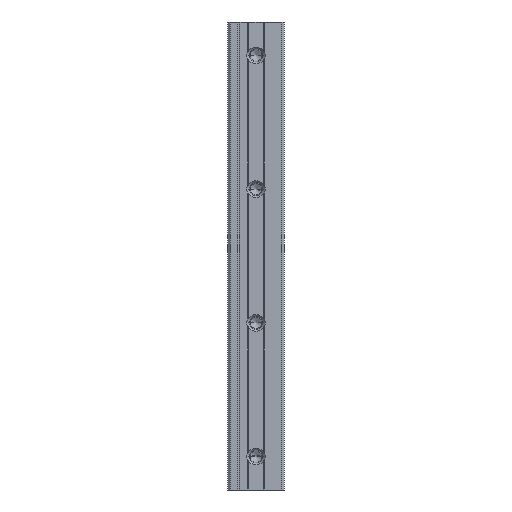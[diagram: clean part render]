
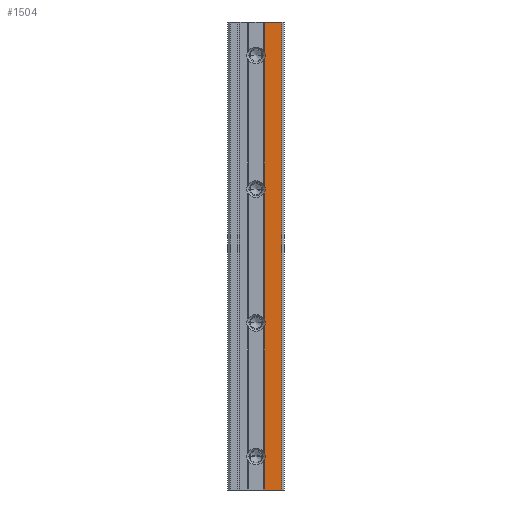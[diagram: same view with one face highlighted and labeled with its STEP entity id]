
A CAD part, front view. The second image highlights one B-rep face of the part: STEP entity #1504.
In plain terms, the highlighted planar face has unit normal (0, -1, 0).
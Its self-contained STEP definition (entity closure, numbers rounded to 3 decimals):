
#75 = VERTEX_POINT ( 'NONE', #2857 ) ;
#81 = VERTEX_POINT ( 'NONE', #2554 ) ;
#123 = AXIS2_PLACEMENT_3D ( 'NONE', #1207, #875, #551 ) ;
#133 = ORIENTED_EDGE ( 'NONE', *, *, #1852, .T. ) ;
#160 = AXIS2_PLACEMENT_3D ( 'NONE', #984, #650, #323 ) ;
#179 = CARTESIAN_POINT ( 'NONE',  ( 22., 0., -102.409 ) ) ;
#199 = VERTEX_POINT ( 'NONE', #3117 ) ;
#215 = EDGE_CURVE ( 'NONE', #477, #75, #1261, .T. ) ;
#224 = ORIENTED_EDGE ( 'NONE', *, *, #1941, .T. ) ;
#225 = AXIS2_PLACEMENT_3D ( 'NONE', #2138, #1811, #1485 ) ;
#241 = DIRECTION ( 'NONE',  ( 1., 0., 0. ) ) ;
#273 = ORIENTED_EDGE ( 'NONE', *, *, #373, .T. ) ;
#274 = ORIENTED_EDGE ( 'NONE', *, *, #2859, .F. ) ;
#285 = DIRECTION ( 'NONE',  ( 0., 0., 1. ) ) ;
#288 = CIRCLE ( 'NONE', #1098, 5.55 ) ;
#289 = DIRECTION ( 'NONE',  ( 0., 0., 1. ) ) ;
#293 = DIRECTION ( 'NONE',  ( 0., 1., 0. ) ) ;
#316 = CARTESIAN_POINT ( 'NONE',  ( 32.5, 0., -280. ) ) ;
#323 = DIRECTION ( 'NONE',  ( -1., 0., 0. ) ) ;
#331 = AXIS2_PLACEMENT_3D ( 'NONE', #2020, #1692, #1354 ) ;
#373 = EDGE_CURVE ( 'NONE', #1851, #1190, #898, .T. ) ;
#422 = CARTESIAN_POINT ( 'NONE',  ( 22.55, 0., -20. ) ) ;
#474 = EDGE_CURVE ( 'NONE', #1072, #199, #2381, .T. ) ;
#477 = VERTEX_POINT ( 'NONE', #1063 ) ;
#487 = EDGE_CURVE ( 'NONE', #2007, #1343, #2986, .T. ) ;
#535 = DIRECTION ( 'NONE',  ( 0., 0., 1. ) ) ;
#541 = CIRCLE ( 'NONE', #123, 5.55 ) ;
#551 = DIRECTION ( 'NONE',  ( -1., 0., 0. ) ) ;
#558 = CIRCLE ( 'NONE', #1833, 5.55 ) ;
#563 = VECTOR ( 'NONE', #743, 1000. ) ;
#575 = CARTESIAN_POINT ( 'NONE',  ( 32.5, 0., -280. ) ) ;
#607 = CARTESIAN_POINT ( 'NONE',  ( 22., 0., -280. ) ) ;
#612 = CARTESIAN_POINT ( 'NONE',  ( 22., 0., -280. ) ) ;
#618 = CARTESIAN_POINT ( 'NONE',  ( 17., 0., -260. ) ) ;
#645 = VECTOR ( 'NONE', #285, 1000. ) ;
#650 = DIRECTION ( 'NONE',  ( 0., 1., 0. ) ) ;
#665 = CARTESIAN_POINT ( 'NONE',  ( 22., 0., 0. ) ) ;
#717 = EDGE_CURVE ( 'NONE', #2409, #2268, #935, .T. ) ;
#735 = ORIENTED_EDGE ( 'NONE', *, *, #2476, .F. ) ;
#740 = DIRECTION ( 'NONE',  ( 0., 0., 1. ) ) ;
#743 = DIRECTION ( 'NONE',  ( 0., 0., 1. ) ) ;
#777 = ORIENTED_EDGE ( 'NONE', *, *, #717, .F. ) ;
#848 = ORIENTED_EDGE ( 'NONE', *, *, #2226, .T. ) ;
#860 = CARTESIAN_POINT ( 'NONE',  ( 32.5, 0., -280. ) ) ;
#872 = EDGE_CURVE ( 'NONE', #1190, #199, #1186, .T. ) ;
#875 = DIRECTION ( 'NONE',  ( 0., 1., 0. ) ) ;
#898 = LINE ( 'NONE', #575, #2752 ) ;
#931 = CARTESIAN_POINT ( 'NONE',  ( 32.5, 0., -280. ) ) ;
#935 = LINE ( 'NONE', #607, #645 ) ;
#941 = LINE ( 'NONE', #612, #1011 ) ;
#947 = CARTESIAN_POINT ( 'NONE',  ( 22., 0., -280. ) ) ;
#984 = CARTESIAN_POINT ( 'NONE',  ( 17., 0., -20. ) ) ;
#1002 = CARTESIAN_POINT ( 'NONE',  ( 22.55, 0., -180. ) ) ;
#1011 = VECTOR ( 'NONE', #289, 1000. ) ;
#1063 = CARTESIAN_POINT ( 'NONE',  ( 22.55, 0., -260. ) ) ;
#1066 = VERTEX_POINT ( 'NONE', #1002 ) ;
#1068 = CARTESIAN_POINT ( 'NONE',  ( 22., 0., -280. ) ) ;
#1071 = CARTESIAN_POINT ( 'NONE',  ( 22., 0., -280. ) ) ;
#1072 = VERTEX_POINT ( 'NONE', #665 ) ;
#1098 = AXIS2_PLACEMENT_3D ( 'NONE', #2661, #2342, #2012 ) ;
#1142 = VERTEX_POINT ( 'NONE', #2742 ) ;
#1160 = EDGE_CURVE ( 'NONE', #2497, #1066, #288, .T. ) ;
#1186 = LINE ( 'NONE', #860, #2879 ) ;
#1190 = VERTEX_POINT ( 'NONE', #931 ) ;
#1207 = CARTESIAN_POINT ( 'NONE',  ( 17., 0., -20. ) ) ;
#1240 = EDGE_CURVE ( 'NONE', #81, #2007, #541, .T. ) ;
#1261 = CIRCLE ( 'NONE', #2197, 5.55 ) ;
#1278 = ORIENTED_EDGE ( 'NONE', *, *, #1954, .F. ) ;
#1280 = ORIENTED_EDGE ( 'NONE', *, *, #2243, .F. ) ;
#1343 = VERTEX_POINT ( 'NONE', #2375 ) ;
#1354 = DIRECTION ( 'NONE',  ( -1., 0., 0. ) ) ;
#1396 = CARTESIAN_POINT ( 'NONE',  ( 22., 0., -97.591 ) ) ;
#1399 = LINE ( 'NONE', #1071, #563 ) ;
#1485 = DIRECTION ( 'NONE',  ( -1., 0., 0. ) ) ;
#1491 = FACE_OUTER_BOUND ( 'NONE', #1758, .T. ) ;
#1504 = ADVANCED_FACE ( 'NONE', ( #1491 ), #1640, .T. ) ;
#1519 = ORIENTED_EDGE ( 'NONE', *, *, #487, .T. ) ;
#1621 = AXIS2_PLACEMENT_3D ( 'NONE', #618, #293, #3153 ) ;
#1640 = PLANE ( 'NONE',  #2068 ) ;
#1692 = DIRECTION ( 'NONE',  ( 0., 1., 0. ) ) ;
#1729 = DIRECTION ( 'NONE',  ( 1., 0., 0. ) ) ;
#1758 = EDGE_LOOP ( 'NONE', ( #133, #2871, #1280, #273, #3151, #3080, #735, #2674, #1519, #1278, #2301, #224, #274, #2157, #848, #777 ) ) ;
#1809 = DIRECTION ( 'NONE',  ( -1., 0., 0. ) ) ;
#1811 = DIRECTION ( 'NONE',  ( 0., 1., 0. ) ) ;
#1833 = AXIS2_PLACEMENT_3D ( 'NONE', #2469, #2136, #1809 ) ;
#1851 = VERTEX_POINT ( 'NONE', #947 ) ;
#1852 = EDGE_CURVE ( 'NONE', #2409, #477, #2543, .T. ) ;
#1941 = EDGE_CURVE ( 'NONE', #1142, #2914, #3018, .T. ) ;
#1954 = EDGE_CURVE ( 'NONE', #2242, #1343, #1399, .T. ) ;
#2007 = VERTEX_POINT ( 'NONE', #422 ) ;
#2012 = DIRECTION ( 'NONE',  ( -1., 0., 0. ) ) ;
#2020 = CARTESIAN_POINT ( 'NONE',  ( 17., 0., -100. ) ) ;
#2031 = DIRECTION ( 'NONE',  ( -1., 0., 0. ) ) ;
#2055 = CARTESIAN_POINT ( 'NONE',  ( 32.5, 0., 0. ) ) ;
#2068 = AXIS2_PLACEMENT_3D ( 'NONE', #316, #3180, #2864 ) ;
#2106 = VECTOR ( 'NONE', #2504, 1000. ) ;
#2136 = DIRECTION ( 'NONE',  ( 0., 1., 0. ) ) ;
#2138 = CARTESIAN_POINT ( 'NONE',  ( 17., 0., -100. ) ) ;
#2150 = EDGE_CURVE ( 'NONE', #2242, #1142, #2295, .T. ) ;
#2157 = ORIENTED_EDGE ( 'NONE', *, *, #1160, .T. ) ;
#2197 = AXIS2_PLACEMENT_3D ( 'NONE', #2681, #2357, #2031 ) ;
#2226 = EDGE_CURVE ( 'NONE', #1066, #2268, #558, .T. ) ;
#2242 = VERTEX_POINT ( 'NONE', #1396 ) ;
#2243 = EDGE_CURVE ( 'NONE', #1851, #75, #2711, .T. ) ;
#2268 = VERTEX_POINT ( 'NONE', #2316 ) ;
#2295 = CIRCLE ( 'NONE', #331, 5.55 ) ;
#2301 = ORIENTED_EDGE ( 'NONE', *, *, #2150, .T. ) ;
#2316 = CARTESIAN_POINT ( 'NONE',  ( 22., 0., -182.409 ) ) ;
#2342 = DIRECTION ( 'NONE',  ( 0., 1., 0. ) ) ;
#2357 = DIRECTION ( 'NONE',  ( 0., 1., 0. ) ) ;
#2375 = CARTESIAN_POINT ( 'NONE',  ( 22., 0., -22.409 ) ) ;
#2381 = LINE ( 'NONE', #2055, #2978 ) ;
#2409 = VERTEX_POINT ( 'NONE', #2654 ) ;
#2469 = CARTESIAN_POINT ( 'NONE',  ( 17., 0., -180. ) ) ;
#2476 = EDGE_CURVE ( 'NONE', #81, #1072, #941, .T. ) ;
#2497 = VERTEX_POINT ( 'NONE', #3079 ) ;
#2504 = DIRECTION ( 'NONE',  ( 0., 0., 1. ) ) ;
#2543 = CIRCLE ( 'NONE', #1621, 5.55 ) ;
#2554 = CARTESIAN_POINT ( 'NONE',  ( 22., 0., -17.591 ) ) ;
#2654 = CARTESIAN_POINT ( 'NONE',  ( 22., 0., -257.591 ) ) ;
#2661 = CARTESIAN_POINT ( 'NONE',  ( 17., 0., -180. ) ) ;
#2674 = ORIENTED_EDGE ( 'NONE', *, *, #1240, .T. ) ;
#2681 = CARTESIAN_POINT ( 'NONE',  ( 17., 0., -260. ) ) ;
#2711 = LINE ( 'NONE', #1068, #3130 ) ;
#2742 = CARTESIAN_POINT ( 'NONE',  ( 22.55, 0., -100. ) ) ;
#2752 = VECTOR ( 'NONE', #241, 1000. ) ;
#2816 = CARTESIAN_POINT ( 'NONE',  ( 22., 0., -280. ) ) ;
#2857 = CARTESIAN_POINT ( 'NONE',  ( 22., 0., -262.409 ) ) ;
#2859 = EDGE_CURVE ( 'NONE', #2497, #2914, #3127, .T. ) ;
#2864 = DIRECTION ( 'NONE',  ( 1., 0., 0. ) ) ;
#2871 = ORIENTED_EDGE ( 'NONE', *, *, #215, .T. ) ;
#2879 = VECTOR ( 'NONE', #535, 1000. ) ;
#2914 = VERTEX_POINT ( 'NONE', #179 ) ;
#2978 = VECTOR ( 'NONE', #1729, 1000. ) ;
#2986 = CIRCLE ( 'NONE', #160, 5.55 ) ;
#3018 = CIRCLE ( 'NONE', #225, 5.55 ) ;
#3079 = CARTESIAN_POINT ( 'NONE',  ( 22., 0., -177.591 ) ) ;
#3080 = ORIENTED_EDGE ( 'NONE', *, *, #474, .F. ) ;
#3117 = CARTESIAN_POINT ( 'NONE',  ( 32.5, 0., 0. ) ) ;
#3127 = LINE ( 'NONE', #2816, #2106 ) ;
#3130 = VECTOR ( 'NONE', #740, 1000. ) ;
#3151 = ORIENTED_EDGE ( 'NONE', *, *, #872, .T. ) ;
#3153 = DIRECTION ( 'NONE',  ( -1., 0., 0. ) ) ;
#3180 = DIRECTION ( 'NONE',  ( 0., -1., 0. ) ) ;
